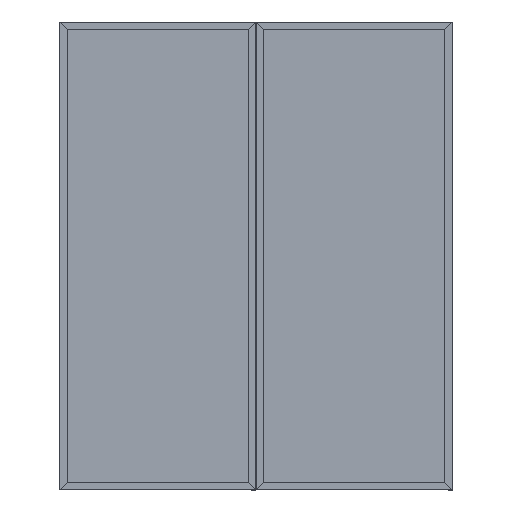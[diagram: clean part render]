
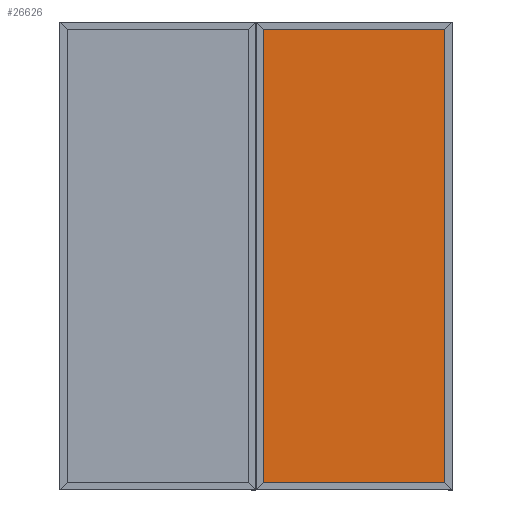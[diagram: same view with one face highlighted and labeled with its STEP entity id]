
A CAD part, top view. The second image highlights one B-rep face of the part: STEP entity #26626.
In plain terms, the highlighted planar face has unit normal (0, 0, 1).
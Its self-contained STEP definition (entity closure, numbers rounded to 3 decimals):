
#4183 = CARTESIAN_POINT ( 'NONE',  ( 465.07, -1162.2, -13.25 ) ) ;
#8498 = VERTEX_POINT ( 'NONE', #8802 ) ;
#8637 = LINE ( 'NONE', #19579, #19585 ) ;
#8802 = CARTESIAN_POINT ( 'NONE',  ( -465.07, -1162.2, -13.25 ) ) ;
#9484 = VERTEX_POINT ( 'NONE', #4183 ) ;
#9963 = ORIENTED_EDGE ( 'NONE', *, *, #21280, .F. ) ;
#10278 = PLANE ( 'NONE',  #34346 ) ;
#11204 = CARTESIAN_POINT ( 'NONE',  ( 0., 1162.2, -13.25 ) ) ;
#11943 = VECTOR ( 'NONE', #22311, 1000. ) ;
#12970 = CARTESIAN_POINT ( 'NONE',  ( 0., 0., -13.25 ) ) ;
#15027 = EDGE_LOOP ( 'NONE', ( #22105, #9963, #21977, #21677 ) ) ;
#15228 = CARTESIAN_POINT ( 'NONE',  ( -465.07, 0., -13.25 ) ) ;
#15274 = DIRECTION ( 'NONE',  ( -1., 0., 0. ) ) ;
#16495 = VECTOR ( 'NONE', #26137, 1000. ) ;
#17613 = CARTESIAN_POINT ( 'NONE',  ( -465.07, 1162.2, -13.25 ) ) ;
#19042 = FACE_OUTER_BOUND ( 'NONE', #15027, .T. ) ;
#19579 = CARTESIAN_POINT ( 'NONE',  ( 0., -1162.2, -13.25 ) ) ;
#19585 = VECTOR ( 'NONE', #15274, 1000. ) ;
#20658 = DIRECTION ( 'NONE',  ( 0., 1., 0. ) ) ;
#21205 = DIRECTION ( 'NONE',  ( 0., 0., -1. ) ) ;
#21280 = EDGE_CURVE ( 'NONE', #9484, #8498, #8637, .T. ) ;
#21677 = ORIENTED_EDGE ( 'NONE', *, *, #28887, .T. ) ;
#21977 = ORIENTED_EDGE ( 'NONE', *, *, #24740, .T. ) ;
#22105 = ORIENTED_EDGE ( 'NONE', *, *, #30073, .F. ) ;
#22311 = DIRECTION ( 'NONE',  ( -1., 0., 0. ) ) ;
#22378 = VECTOR ( 'NONE', #20658, 1000. ) ;
#22409 = VERTEX_POINT ( 'NONE', #29805 ) ;
#22979 = LINE ( 'NONE', #29063, #22378 ) ;
#24153 = LINE ( 'NONE', #15228, #16495 ) ;
#24237 = DIRECTION ( 'NONE',  ( -1., 0., 0. ) ) ;
#24740 = EDGE_CURVE ( 'NONE', #9484, #22409, #22979, .T. ) ;
#25543 = VERTEX_POINT ( 'NONE', #17613 ) ;
#26137 = DIRECTION ( 'NONE',  ( 0., 1., 0. ) ) ;
#26626 = ADVANCED_FACE ( 'NONE', ( #19042 ), #10278, .F. ) ;
#28887 = EDGE_CURVE ( 'NONE', #22409, #25543, #30736, .T. ) ;
#29063 = CARTESIAN_POINT ( 'NONE',  ( 465.07, 0., -13.25 ) ) ;
#29805 = CARTESIAN_POINT ( 'NONE',  ( 465.07, 1162.2, -13.25 ) ) ;
#30073 = EDGE_CURVE ( 'NONE', #8498, #25543, #24153, .T. ) ;
#30736 = LINE ( 'NONE', #11204, #11943 ) ;
#34346 = AXIS2_PLACEMENT_3D ( 'NONE', #12970, #21205, #24237 ) ;
